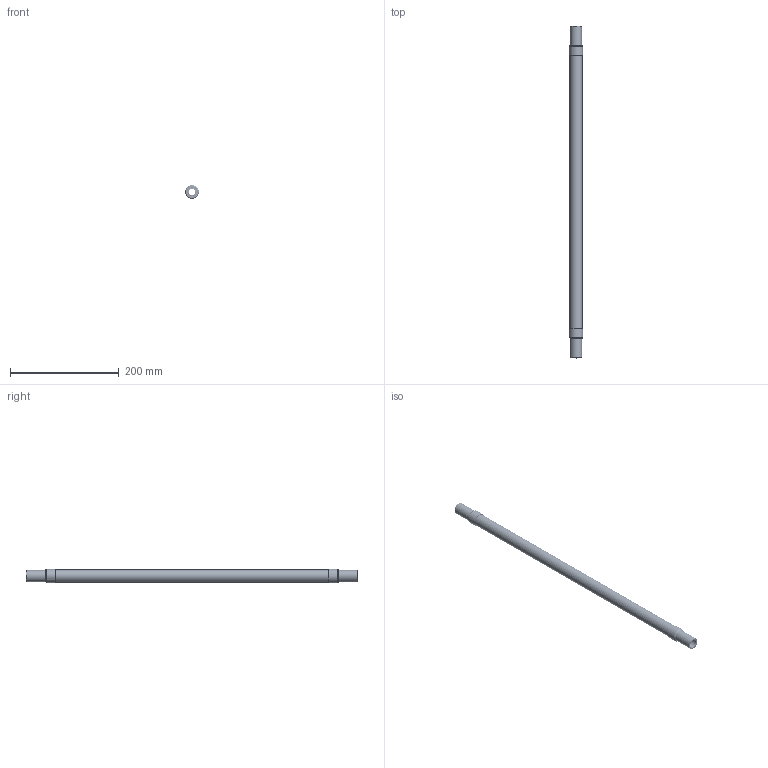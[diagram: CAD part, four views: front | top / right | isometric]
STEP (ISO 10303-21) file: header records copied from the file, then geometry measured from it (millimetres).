
FILE_DESCRIPTION((''),'2;1');
FILE_NAME('C:\2012_Work\Designs\MN\MN-0.5x24.stp','2013-08-09T16:38:04',('KShiels'),(''),'Autodesk Inventor 2012','Autodesk Inventor 2012','');
FILE_SCHEMA(('AUTOMOTIVE_DESIGN { 1 0 10303 214 1 1 1 1 }'));
Length unit declared in the file: inch
Products named in the file (6): MN-0; MN-0_Welds; A-30094-5-0; A-30094-5_4in_MN-BELLOWS
Assembly tree (7 placements, depth 2):
  MN-0
    MN-0_Welds
    A-30094-5-0
    A-30094-5-0  x2
    A-30094-5_4in_MN-BELLOWS
    A-30094-5-0  x2
Bounding box: 25.09 x 609.6 x 25.09 mm (x, y, z)
Volume: 55824.7 mm3; surface area: 280187 mm2
Topology: 8 solids, 8 shells, 1318 faces, 1986 edges, 1326 vertices
Faces by surface type: plane 658, torus 646, cylinder 12, bspline 2
Full cylindrical faces by diameter (mm): 15.799 x2, 21.336 x4, 22.098 x1, 22.708 x3, 25.089 x2
Entity records: 26886 total; most frequent: DIRECTION 5254, CARTESIAN_POINT 4381, ORIENTED_EDGE 2632, AXIS2_PLACEMENT_3D 2627, EDGE_LOOP 2618, EDGE_CURVE 1316, VERTEX_POINT 1314, FACE_OUTER_BOUND 1310
